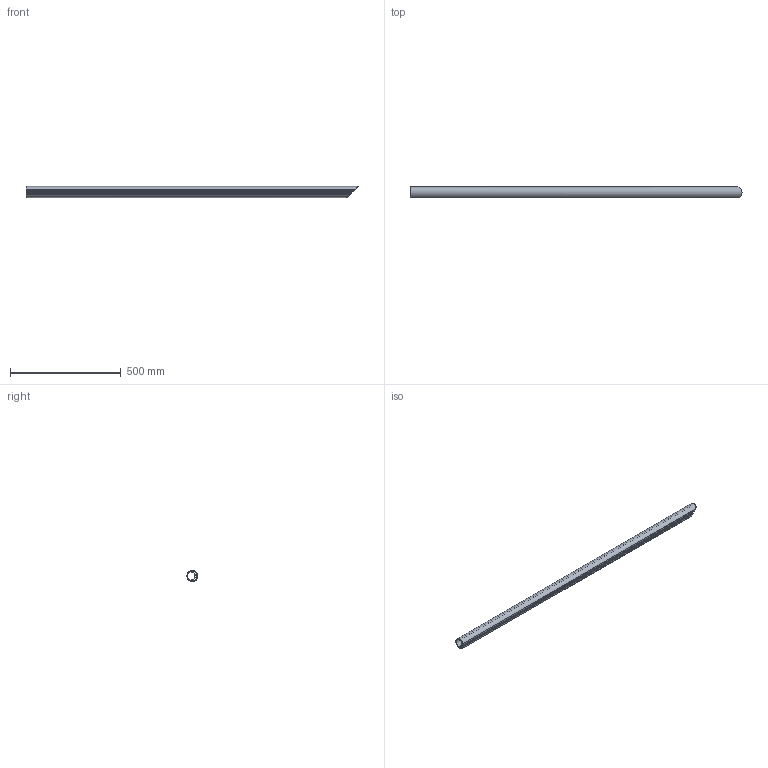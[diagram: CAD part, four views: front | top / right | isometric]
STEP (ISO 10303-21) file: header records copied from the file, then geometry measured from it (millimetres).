
FILE_DESCRIPTION(/* description */ (''),/* implementation_level */ '2;1');
FILE_NAME(/* name */ 'Pos129-HANDREGEL PROFIEL 50X47-Aluminium-1st',/* time_stamp */ '2024-08-06T11:49:44+02:00',/* author */ (''),/* organization */ (''),/* preprocessor_version */ 'ST-DEVELOPER v16.5',/* originating_system */ 'HiCAD 2024 2901.2 Build 361',/* authorisation */ '');
FILE_SCHEMA (('AUTOMOTIVE_DESIGN { 1 0 10303 214 1 1 1 1 }'));
Length unit declared in the file: millimetre
Products named in the file (1): Pos129-HANDREGEL PROFIEL 50X47-Aluminium-1st
Bounding box: 1501.5 x 46.5 x 50 mm (x, y, z)
Volume: 812580 mm3; surface area: 550377.3 mm2
Topology: 1 solids, 1 shells, 44 faces, 126 edges, 84 vertices
Faces by surface type: cylinder 30, plane 14
Entity records: 2752 total; most frequent: DIRECTION 274, CARTESIAN_POINT 254, PRESENTATION_STYLE_ASSIGNMENT 253, COLOUR_RGB 253, DRAUGHTING_PRE_DEFINED_CURVE_FONT 252, CURVE_STYLE 252, OVER_RIDING_STYLED_ITEM 252, ORIENTED_EDGE 252
